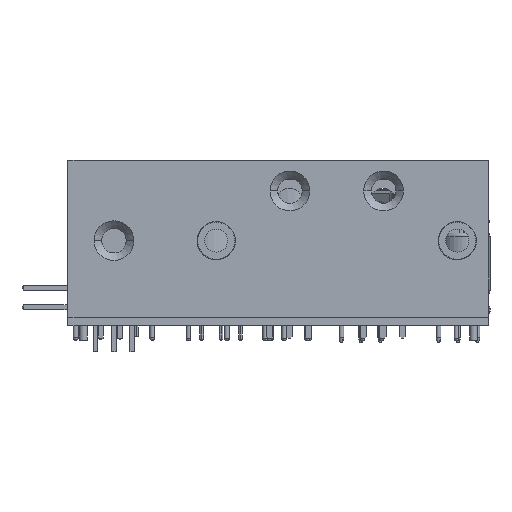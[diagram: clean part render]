
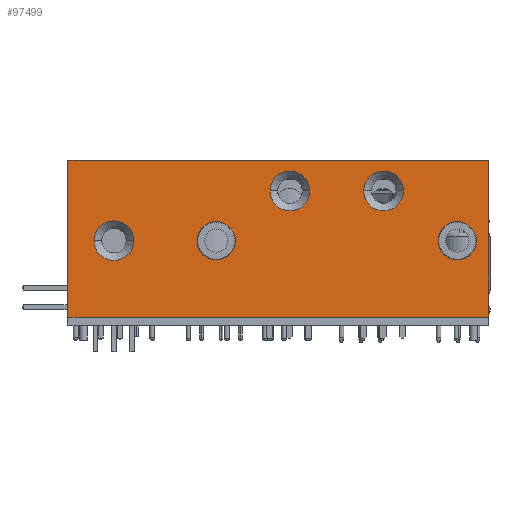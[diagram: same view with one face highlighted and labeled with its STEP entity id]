
A CAD part, front view. The second image highlights one B-rep face of the part: STEP entity #97499.
In plain terms, the highlighted planar face has unit normal (0, -1, 0).
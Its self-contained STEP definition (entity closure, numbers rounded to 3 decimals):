
#3823 = CARTESIAN_POINT ( 'NONE',  ( 56.4, 29.5, 16.5 ) ) ;
#4119 = DIRECTION ( 'NONE',  ( 0., 0., 1. ) ) ;
#4592 = EDGE_CURVE ( 'NONE', #86966, #14255, #4721, .T. ) ;
#4721 = CIRCLE ( 'NONE', #61871, 2.6 ) ;
#6647 = EDGE_LOOP ( 'NONE', ( #87001, #6792, #97536, #89834 ) ) ;
#6669 = VERTEX_POINT ( 'NONE', #83051 ) ;
#6792 = ORIENTED_EDGE ( 'NONE', *, *, #97886, .T. ) ;
#8094 = DIRECTION ( 'NONE',  ( -1., 0., 0. ) ) ;
#8338 = EDGE_CURVE ( 'NONE', #56833, #72778, #105600, .T. ) ;
#8645 = AXIS2_PLACEMENT_3D ( 'NONE', #25562, #50170, #24181 ) ;
#9213 = EDGE_LOOP ( 'NONE', ( #44048, #42741 ) ) ;
#9698 = VERTEX_POINT ( 'NONE', #53518 ) ;
#9726 = LINE ( 'NONE', #101048, #35693 ) ;
#9995 = VERTEX_POINT ( 'NONE', #101162 ) ;
#12129 = CARTESIAN_POINT ( 'NONE',  ( 36., 29.5, 10. ) ) ;
#14000 = ORIENTED_EDGE ( 'NONE', *, *, #20574, .F. ) ;
#14255 = VERTEX_POINT ( 'NONE', #59251 ) ;
#16281 = AXIS2_PLACEMENT_3D ( 'NONE', #94116, #94809, #77382 ) ;
#16983 = VERTEX_POINT ( 'NONE', #44403 ) ;
#17242 = ORIENTED_EDGE ( 'NONE', *, *, #52946, .F. ) ;
#17462 = CARTESIAN_POINT ( 'NONE',  ( 59., 29.5, 16.5 ) ) ;
#18138 = DIRECTION ( 'NONE',  ( 0., -1., 0. ) ) ;
#18891 = PLANE ( 'NONE',  #69397 ) ;
#20574 = EDGE_CURVE ( 'NONE', #9698, #77686, #86387, .T. ) ;
#20747 = CARTESIAN_POINT ( 'NONE',  ( 49.37, 29.5, 12.5 ) ) ;
#21120 = AXIS2_PLACEMENT_3D ( 'NONE', #53748, #43957, #4119 ) ;
#21270 = EDGE_CURVE ( 'NONE', #6669, #104346, #101666, .T. ) ;
#21611 = CIRCLE ( 'NONE', #16281, 2.5 ) ;
#21723 = EDGE_CURVE ( 'NONE', #9995, #61271, #96367, .T. ) ;
#22190 = EDGE_CURVE ( 'NONE', #83853, #54556, #32623, .T. ) ;
#23772 = DIRECTION ( 'NONE',  ( 1., 0., 0. ) ) ;
#24181 = DIRECTION ( 'NONE',  ( 1., 0., 0. ) ) ;
#24184 = FACE_BOUND ( 'NONE', #30755, .T. ) ;
#24872 = EDGE_CURVE ( 'NONE', #104346, #6669, #86240, .T. ) ;
#25562 = CARTESIAN_POINT ( 'NONE',  ( 71.25, 29.5, 16.5 ) ) ;
#26091 = DIRECTION ( 'NONE',  ( 0., -1., 0. ) ) ;
#29477 = ORIENTED_EDGE ( 'NONE', *, *, #34816, .T. ) ;
#30755 = EDGE_LOOP ( 'NONE', ( #65132, #29477 ) ) ;
#32623 = LINE ( 'NONE', #72991, #102581 ) ;
#34816 = EDGE_CURVE ( 'NONE', #79857, #16983, #75176, .T. ) ;
#35693 = VECTOR ( 'NONE', #92713, 1000. ) ;
#36387 = ORIENTED_EDGE ( 'NONE', *, *, #4592, .F. ) ;
#36451 = CIRCLE ( 'NONE', #66068, 2.6 ) ;
#37630 = VECTOR ( 'NONE', #8094, 1000. ) ;
#37745 = CARTESIAN_POINT ( 'NONE',  ( 38.6, 29.5, 10. ) ) ;
#38618 = EDGE_LOOP ( 'NONE', ( #97643, #14000 ) ) ;
#39011 = DIRECTION ( 'NONE',  ( 0., 1., 0. ) ) ;
#40362 = DIRECTION ( 'NONE',  ( 0., -1., 0. ) ) ;
#42741 = ORIENTED_EDGE ( 'NONE', *, *, #54193, .F. ) ;
#43957 = DIRECTION ( 'NONE',  ( 0., 1., 0. ) ) ;
#44048 = ORIENTED_EDGE ( 'NONE', *, *, #8338, .F. ) ;
#44205 = AXIS2_PLACEMENT_3D ( 'NONE', #73703, #40362, #23772 ) ;
#44403 = CARTESIAN_POINT ( 'NONE',  ( 80.875, 29.5, 12.5 ) ) ;
#45297 = CARTESIAN_POINT ( 'NONE',  ( 85., 29.5, 0. ) ) ;
#47718 = DIRECTION ( 'NONE',  ( 0., 1., 0. ) ) ;
#50170 = DIRECTION ( 'NONE',  ( 0., -1., 0. ) ) ;
#50405 = AXIS2_PLACEMENT_3D ( 'NONE', #97463, #47718, #89431 ) ;
#52265 = CARTESIAN_POINT ( 'NONE',  ( 80.875, 29.5, 7.5 ) ) ;
#52946 = EDGE_CURVE ( 'NONE', #14255, #86966, #88859, .T. ) ;
#53043 = ORIENTED_EDGE ( 'NONE', *, *, #21270, .T. ) ;
#53518 = CARTESIAN_POINT ( 'NONE',  ( 33.4, 29.5, 10. ) ) ;
#53748 = CARTESIAN_POINT ( 'NONE',  ( 49.37, 29.5, 10. ) ) ;
#54193 = EDGE_CURVE ( 'NONE', #72778, #56833, #55883, .T. ) ;
#54415 = CARTESIAN_POINT ( 'NONE',  ( 73.85, 29.5, 16.5 ) ) ;
#54423 = DIRECTION ( 'NONE',  ( 1., 0., 0. ) ) ;
#54534 = EDGE_LOOP ( 'NONE', ( #59484, #53043 ) ) ;
#54556 = VERTEX_POINT ( 'NONE', #57696 ) ;
#55883 = CIRCLE ( 'NONE', #8645, 2.6 ) ;
#56833 = VERTEX_POINT ( 'NONE', #54415 ) ;
#57274 = EDGE_LOOP ( 'NONE', ( #17242, #36387 ) ) ;
#57696 = CARTESIAN_POINT ( 'NONE',  ( 85., 29.5, 20.5 ) ) ;
#57832 = FACE_BOUND ( 'NONE', #57274, .T. ) ;
#59251 = CARTESIAN_POINT ( 'NONE',  ( 61.6, 29.5, 16.5 ) ) ;
#59484 = ORIENTED_EDGE ( 'NONE', *, *, #24872, .T. ) ;
#61271 = VERTEX_POINT ( 'NONE', #64624 ) ;
#61871 = AXIS2_PLACEMENT_3D ( 'NONE', #17462, #26091, #92464 ) ;
#64624 = CARTESIAN_POINT ( 'NONE',  ( 30., 29.5, 20.5 ) ) ;
#64694 = DIRECTION ( 'NONE',  ( 0., 0., 1. ) ) ;
#65132 = ORIENTED_EDGE ( 'NONE', *, *, #85994, .T. ) ;
#65404 = EDGE_CURVE ( 'NONE', #77686, #9698, #36451, .T. ) ;
#66068 = AXIS2_PLACEMENT_3D ( 'NONE', #95535, #87139, #76583 ) ;
#67476 = AXIS2_PLACEMENT_3D ( 'NONE', #79266, #39011, #97072 ) ;
#69397 = AXIS2_PLACEMENT_3D ( 'NONE', #76794, #92801, #93157 ) ;
#70820 = FACE_BOUND ( 'NONE', #38618, .T. ) ;
#72778 = VERTEX_POINT ( 'NONE', #106872 ) ;
#72991 = CARTESIAN_POINT ( 'NONE',  ( 85., 29.5, 20.5 ) ) ;
#73703 = CARTESIAN_POINT ( 'NONE',  ( 71.25, 29.5, 16.5 ) ) ;
#74226 = VECTOR ( 'NONE', #81502, 1000. ) ;
#75176 = CIRCLE ( 'NONE', #67476, 2.5 ) ;
#76583 = DIRECTION ( 'NONE',  ( 1., 0., 0. ) ) ;
#76794 = CARTESIAN_POINT ( 'NONE',  ( 30., 29.5, 20.5 ) ) ;
#77382 = DIRECTION ( 'NONE',  ( 0., 0., 1. ) ) ;
#77686 = VERTEX_POINT ( 'NONE', #37745 ) ;
#79266 = CARTESIAN_POINT ( 'NONE',  ( 80.875, 29.5, 10. ) ) ;
#79857 = VERTEX_POINT ( 'NONE', #52265 ) ;
#81279 = FACE_BOUND ( 'NONE', #54534, .T. ) ;
#81502 = DIRECTION ( 'NONE',  ( 0., 0., 1. ) ) ;
#82995 = LINE ( 'NONE', #107240, #37630 ) ;
#83051 = CARTESIAN_POINT ( 'NONE',  ( 49.37, 29.5, 7.5 ) ) ;
#83853 = VERTEX_POINT ( 'NONE', #45297 ) ;
#84507 = EDGE_CURVE ( 'NONE', #83853, #9995, #82995, .T. ) ;
#84761 = CARTESIAN_POINT ( 'NONE',  ( 59., 29.5, 16.5 ) ) ;
#84796 = AXIS2_PLACEMENT_3D ( 'NONE', #84761, #18138, #101835 ) ;
#85994 = EDGE_CURVE ( 'NONE', #16983, #79857, #21611, .T. ) ;
#86240 = CIRCLE ( 'NONE', #21120, 2.5 ) ;
#86387 = CIRCLE ( 'NONE', #93549, 2.6 ) ;
#86966 = VERTEX_POINT ( 'NONE', #3823 ) ;
#87001 = ORIENTED_EDGE ( 'NONE', *, *, #22190, .T. ) ;
#87139 = DIRECTION ( 'NONE',  ( 0., -1., 0. ) ) ;
#87723 = FACE_BOUND ( 'NONE', #9213, .T. ) ;
#88859 = CIRCLE ( 'NONE', #84796, 2.6 ) ;
#89431 = DIRECTION ( 'NONE',  ( 0., 0., 1. ) ) ;
#89464 = CARTESIAN_POINT ( 'NONE',  ( 30., 29.5, 20.5 ) ) ;
#89834 = ORIENTED_EDGE ( 'NONE', *, *, #84507, .F. ) ;
#92464 = DIRECTION ( 'NONE',  ( 1., 0., 0. ) ) ;
#92713 = DIRECTION ( 'NONE',  ( -1., 0., 0. ) ) ;
#92801 = DIRECTION ( 'NONE',  ( 0., 1., 0. ) ) ;
#93157 = DIRECTION ( 'NONE',  ( 0., 0., 1. ) ) ;
#93549 = AXIS2_PLACEMENT_3D ( 'NONE', #12129, #104141, #54423 ) ;
#94116 = CARTESIAN_POINT ( 'NONE',  ( 80.875, 29.5, 10. ) ) ;
#94809 = DIRECTION ( 'NONE',  ( 0., 1., 0. ) ) ;
#95535 = CARTESIAN_POINT ( 'NONE',  ( 36., 29.5, 10. ) ) ;
#96367 = LINE ( 'NONE', #89464, #74226 ) ;
#97072 = DIRECTION ( 'NONE',  ( 0., 0., 1. ) ) ;
#97463 = CARTESIAN_POINT ( 'NONE',  ( 49.37, 29.5, 10. ) ) ;
#97499 = ADVANCED_FACE ( 'NONE', ( #103349, #81279, #24184, #57832, #87723, #70820 ), #18891, .F. ) ;
#97536 = ORIENTED_EDGE ( 'NONE', *, *, #21723, .F. ) ;
#97643 = ORIENTED_EDGE ( 'NONE', *, *, #65404, .F. ) ;
#97886 = EDGE_CURVE ( 'NONE', #54556, #61271, #9726, .T. ) ;
#101048 = CARTESIAN_POINT ( 'NONE',  ( 30., 29.5, 20.5 ) ) ;
#101162 = CARTESIAN_POINT ( 'NONE',  ( 30., 29.5, 0. ) ) ;
#101666 = CIRCLE ( 'NONE', #50405, 2.5 ) ;
#101835 = DIRECTION ( 'NONE',  ( 1., 0., 0. ) ) ;
#102581 = VECTOR ( 'NONE', #64694, 1000. ) ;
#103349 = FACE_OUTER_BOUND ( 'NONE', #6647, .T. ) ;
#104141 = DIRECTION ( 'NONE',  ( 0., -1., 0. ) ) ;
#104346 = VERTEX_POINT ( 'NONE', #20747 ) ;
#105600 = CIRCLE ( 'NONE', #44205, 2.6 ) ;
#106872 = CARTESIAN_POINT ( 'NONE',  ( 68.65, 29.5, 16.5 ) ) ;
#107240 = CARTESIAN_POINT ( 'NONE',  ( 30., 29.5, 0. ) ) ;
